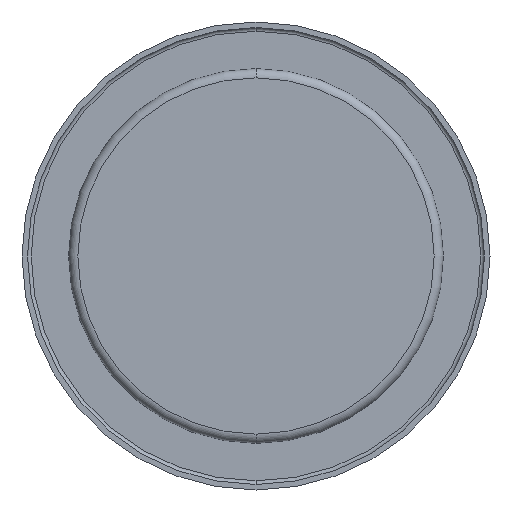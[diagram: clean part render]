
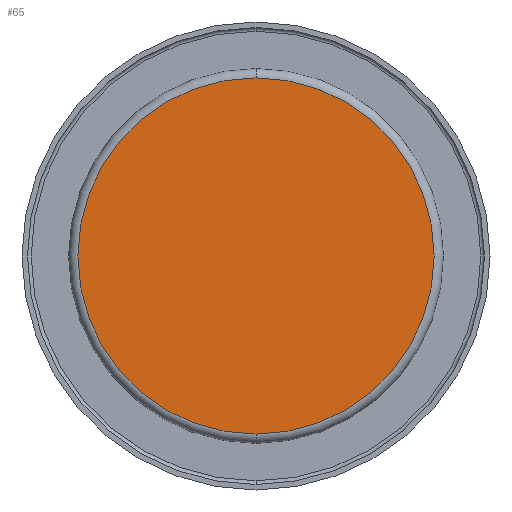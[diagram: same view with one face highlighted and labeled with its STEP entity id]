
A CAD part, front view. The second image highlights one B-rep face of the part: STEP entity #65.
In plain terms, the highlighted planar face has unit normal (0, -1, 0).
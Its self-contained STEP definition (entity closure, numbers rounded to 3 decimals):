
#30 = EDGE_CURVE ( 'NONE', #367, #70, #195, .T. ) ;
#65 = ADVANCED_FACE ( 'NONE', ( #1086 ), #330, .T. ) ;
#70 = VERTEX_POINT ( 'NONE', #482 ) ;
#75 = EDGE_CURVE ( 'NONE', #70, #367, #106, .T. ) ;
#106 = CIRCLE ( 'NONE', #294, 96.631 ) ;
#118 = ORIENTED_EDGE ( 'NONE', *, *, #30, .T. ) ;
#195 = CIRCLE ( 'NONE', #282, 96.631 ) ;
#237 = CARTESIAN_POINT ( 'NONE',  ( 0., -67.972, 0. ) ) ;
#282 = AXIS2_PLACEMENT_3D ( 'NONE', #828, #814, #993 ) ;
#294 = AXIS2_PLACEMENT_3D ( 'NONE', #582, #921, #403 ) ;
#330 = PLANE ( 'NONE',  #619 ) ;
#367 = VERTEX_POINT ( 'NONE', #433 ) ;
#403 = DIRECTION ( 'NONE',  ( 0., 0., -1. ) ) ;
#433 = CARTESIAN_POINT ( 'NONE',  ( 0., -67.972, -96.631 ) ) ;
#482 = CARTESIAN_POINT ( 'NONE',  ( 0., -67.972, 96.631 ) ) ;
#582 = CARTESIAN_POINT ( 'NONE',  ( 0., -67.972, 0. ) ) ;
#619 = AXIS2_PLACEMENT_3D ( 'NONE', #237, #984, #825 ) ;
#625 = EDGE_LOOP ( 'NONE', ( #118, #634 ) ) ;
#634 = ORIENTED_EDGE ( 'NONE', *, *, #75, .T. ) ;
#814 = DIRECTION ( 'NONE',  ( 0., -1., 0. ) ) ;
#825 = DIRECTION ( 'NONE',  ( 0., 0., -1. ) ) ;
#828 = CARTESIAN_POINT ( 'NONE',  ( 0., -67.972, 0. ) ) ;
#921 = DIRECTION ( 'NONE',  ( 0., -1., 0. ) ) ;
#984 = DIRECTION ( 'NONE',  ( 0., -1., 0. ) ) ;
#993 = DIRECTION ( 'NONE',  ( 0., 0., -1. ) ) ;
#1086 = FACE_OUTER_BOUND ( 'NONE', #625, .T. ) ;
